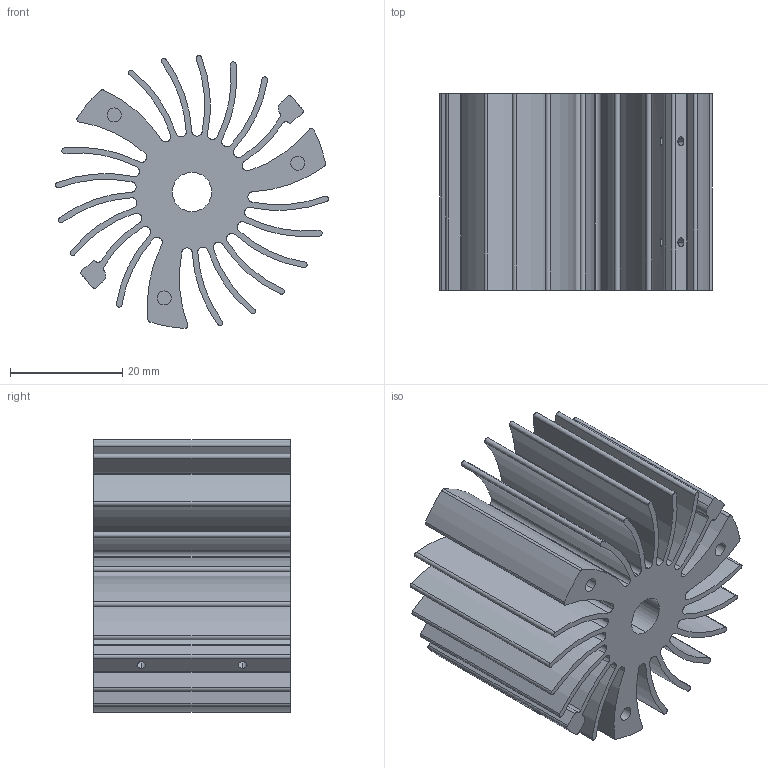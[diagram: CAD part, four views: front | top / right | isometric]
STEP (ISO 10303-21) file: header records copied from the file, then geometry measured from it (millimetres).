
FILE_DESCRIPTION((''),'2;1');
FILE_NAME('X00726-REVB','2014-06-30T',('brian.kuhl'),(''),'PRO/ENGINEER BY PARAMETRIC TECHNOLOGY CORPORATION, 2013050','PRO/ENGINEER BY PARAMETRIC TECHNOLOGY CORPORATION, 2013050','');
FILE_SCHEMA(('CONFIG_CONTROL_DESIGN'));
Length unit declared in the file: millimetre
Products named in the file (1): X00726-REVB
Bounding box: 48.6 x 35 x 48.6 mm (x, y, z)
Volume: 27675.3 mm3; surface area: 26943.5 mm2
Topology: 1 solids, 1 shells, 203 faces, 594 edges, 398 vertices
Faces by surface type: cylinder 178, plane 25
Entity records: 7132 total; most frequent: CARTESIAN_POINT 1371, DIRECTION 1324, ORIENTED_EDGE 1188, EDGE_CURVE 594, AXIS2_PLACEMENT_3D 557, VERTEX_POINT 398, CIRCLE 354, EDGE_LOOP 222
